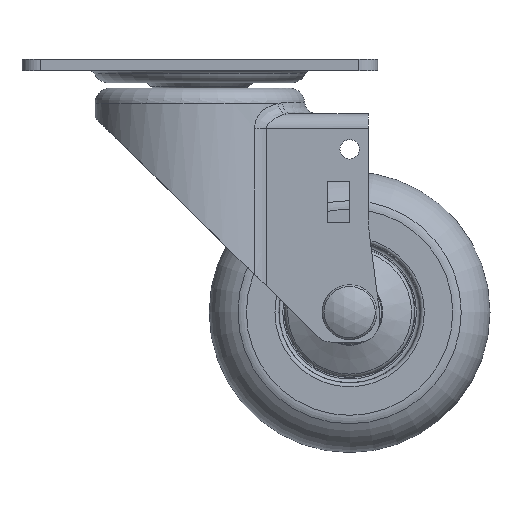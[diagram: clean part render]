
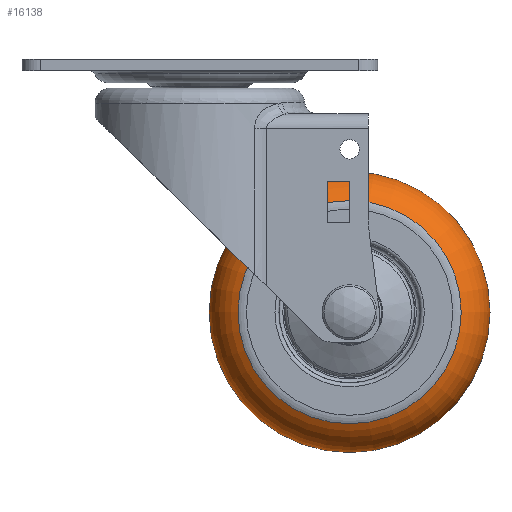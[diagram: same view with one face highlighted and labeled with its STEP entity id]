
A CAD part, front view. The second image highlights one B-rep face of the part: STEP entity #16138.
In plain terms, the highlighted toroidal (fillet/blend) face has major radius 23.51 mm and minor radius 14 mm.
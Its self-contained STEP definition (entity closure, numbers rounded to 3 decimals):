
#161=TOROIDAL_SURFACE('',#17169,23.51,14.);
#405=CIRCLE('',#17168,29.807);
#406=CIRCLE('',#17170,37.5);
#586=FACE_BOUND('',#2442,.T.);
#1445=FACE_OUTER_BOUND('',#2441,.T.);
#2441=EDGE_LOOP('',(#14534));
#2442=EDGE_LOOP('',(#14535));
#7911=VERTEX_POINT('',#27389);
#7912=VERTEX_POINT('',#27392);
#10134=EDGE_CURVE('',#7911,#7911,#405,.T.);
#10135=EDGE_CURVE('',#7912,#7912,#406,.T.);
#14534=ORIENTED_EDGE('',*,*,#10134,.T.);
#14535=ORIENTED_EDGE('',*,*,#10135,.F.);
#16138=ADVANCED_FACE('',(#1445,#586),#161,.T.);
#17168=AXIS2_PLACEMENT_3D('',#27390,#21169,#21170);
#17169=AXIS2_PLACEMENT_3D('',#27391,#21171,#21172);
#17170=AXIS2_PLACEMENT_3D('',#27393,#21173,#21174);
#21169=DIRECTION('center_axis',(0.,1.,0.));
#21170=DIRECTION('ref_axis',(1.,0.,0.));
#21171=DIRECTION('center_axis',(0.,1.,0.));
#21172=DIRECTION('ref_axis',(0.,0.,1.));
#21173=DIRECTION('center_axis',(0.,1.,0.));
#21174=DIRECTION('ref_axis',(1.,0.,0.));
#27389=CARTESIAN_POINT('',(31.5,-11.966,17.407));
#27390=CARTESIAN_POINT('Origin',(31.5,-11.966,-12.4));
#27391=CARTESIAN_POINT('Origin',(31.5,0.538,-12.4));
#27392=CARTESIAN_POINT('',(31.5,0.,25.1));
#27393=CARTESIAN_POINT('Origin',(31.5,0.,-12.4));
